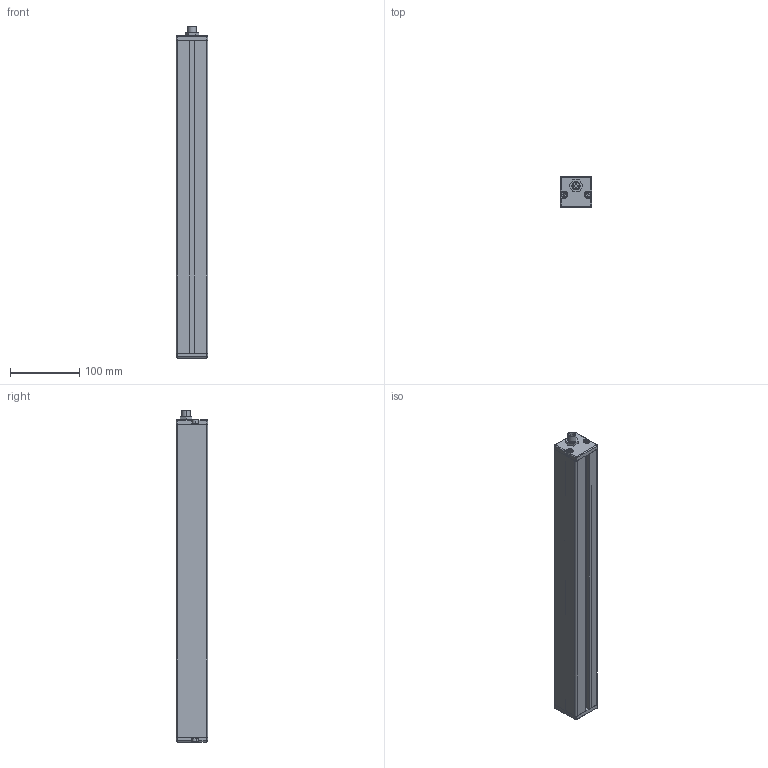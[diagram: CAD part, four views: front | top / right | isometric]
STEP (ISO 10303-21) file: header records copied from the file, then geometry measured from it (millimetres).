
FILE_DESCRIPTION (( 'STEP AP214' ), '1' );
FILE_NAME ('NBAR18.STEP', '2012-01-13T15:15:56', ( 'JRLEDS' ), ( '' ), 'SwSTEP 2.0', 'SolidWorks 2010', '' );
FILE_SCHEMA (( 'AUTOMOTIVE_DESIGN' ));
Length unit declared in the file: millimetre
Products named in the file (8): Embout ALU; PROT-NBAR18; screw_din_912-m5x0_8-10-8_8_Default; Embout percé ALU; SW3DPS-FISCHER_DBP_103_Z053-130-DEFAULT; CIR6LED; NBAR18; PROF-NBAR18
Assembly tree (12 placements, depth 2):
  NBAR18
    screw_din_912-m5x0_8-10-8_8_Default  x4
    PROT-NBAR18
    Embout percé ALU
    PROF-NBAR18
    CIR6LED  x3
    SW3DPS-FISCHER_DBP_103_Z053-130-DEFAULT
    Embout ALU
Bounding box: 45.1 x 45 x 480 mm (x, y, z)
Volume: 318448.2 mm3; surface area: 295883.4 mm2
Topology: 30 solids, 30 shells, 393 faces, 908 edges, 574 vertices
Faces by surface type: plane 228, cylinder 127, cone 16, torus 14, sphere 8
Entity records: 9084 total; most frequent: DIRECTION 1300, CARTESIAN_POINT 1276, ORIENTED_EDGE 1180, EDGE_CURVE 590, AXIS2_PLACEMENT_3D 455, LINE 390, VECTOR 390, VERTEX_POINT 379
